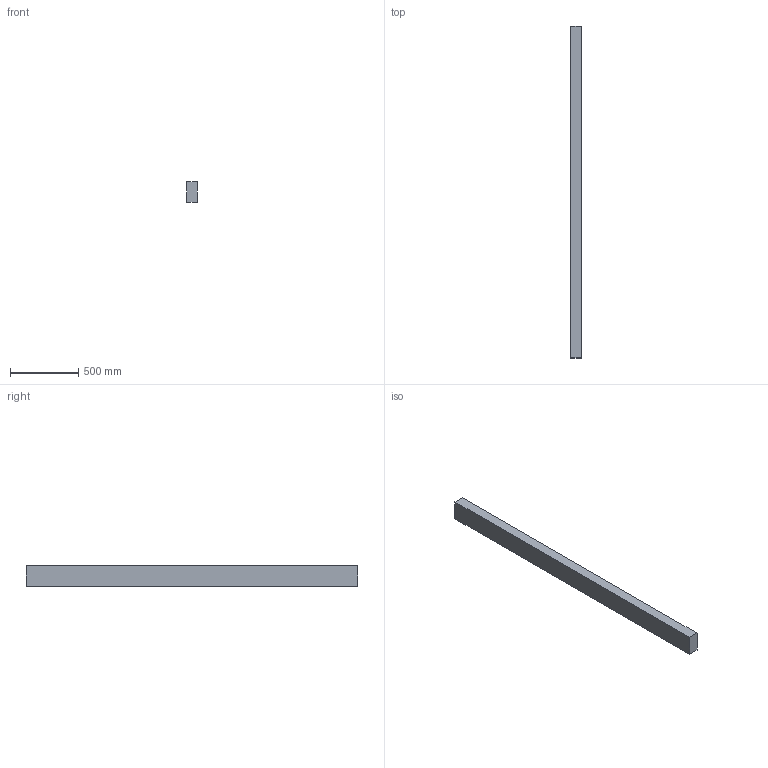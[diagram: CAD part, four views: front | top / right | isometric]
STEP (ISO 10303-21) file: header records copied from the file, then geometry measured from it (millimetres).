
FILE_DESCRIPTION(/* description */ (''),/* implementation_level */ '2;1');
FILE_NAME(/* name */ '3x6x96',/* time_stamp */ '2024-09-20T11:43:55-05:00',/* author */ (''),/* organization */ (''),/* preprocessor_version */ 'ST-DEVELOPER v19.2',/* originating_system */ 'Rhino 8.5',/* authorisation */ '');
FILE_SCHEMA (('CONFIG_CONTROL_DESIGN'));
Length unit declared in the file: inch
Products named in the file (1): Document
Bounding box: 76.2 x 2438.4 x 152.4 mm (x, y, z)
Volume: 28316846.6 mm3; surface area: 1138062.2 mm2
Topology: 1 solids, 1 shells, 6 faces, 12 edges, 8 vertices
Faces by surface type: plane 6
Entity records: 226 total; most frequent: CARTESIAN_POINT 40, ORIENTED_EDGE 24, EDGE_CURVE 12, B_SPLINE_CURVE_WITH_KNOTS 12, DIRECTION 10, VERTEX_POINT 8, AXIS2_PLACEMENT_3D 8, ORGANIZATION 7
